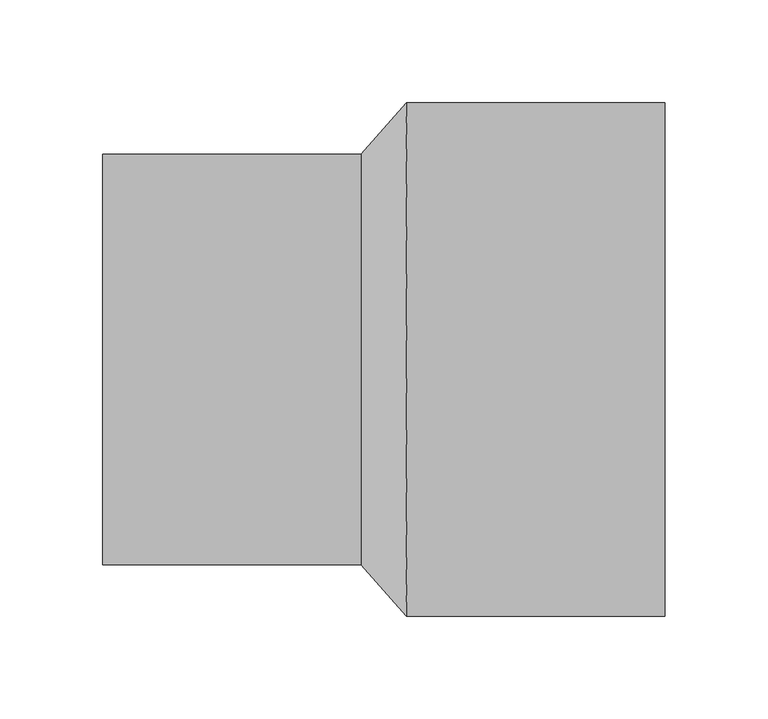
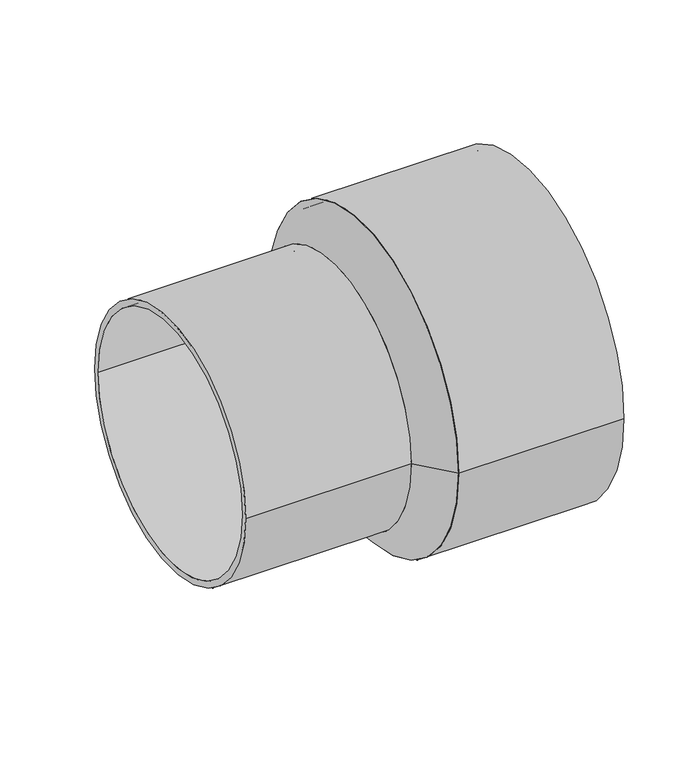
"""IFC4 building model written with IfcOpenShell, lengths in millimetres: pipe fitting geometry, EGB_VASEN_ PPR_Manguito reductor a tope WXRB110 : Manguito reductor a tope WXRB110."""

from ifc_helpers import new_model, si_unit, point, frame, origin, origin_2d, place, context, project, spatial, polyline, circle_curve, trimmed, segment, composite_curve, outline, extrude, source, transform, mapped, element, save
from ifc_brep_helpers import plane_surface, revolved_surface, advanced_brep


def pipe_fitting_e7738f66(model_context):
    return source(origin(), model_context, "Body", "SolidModel", [
        extrude(outline(composite_curve([segment(trimmed(circle_curve(origin_2d(), 125.0), [point((-125.0, 0.0))], [point((125.0, 0.0))], False, "CARTESIAN"), True, "CONTINUOUS"), segment(trimmed(circle_curve(origin_2d(), 125.0), [point((125.0, 0.0))], [point((-125.0, 0.0))], False, "CARTESIAN"), True, "CONTINUOUS")], self_intersect=False), holes=[composite_curve([segment(trimmed(circle_curve(origin_2d(), 120.0), [point((-120.0, 0.0))], [point((120.0, 0.0))], True, "CARTESIAN"), True, "CONTINUOUS"), segment(trimmed(circle_curve(origin_2d(), 120.0), [point((120.0, 0.0))], [point((-120.0, 0.0))], True, "CARTESIAN"), True, "CONTINUOUS")], self_intersect=False)]), frame((10.96, 0.0, 0.0), z_axis=(1.0, 0.0, 0.0), x_axis=(0.0, 1.0, 0.0)), (0.0, 0.0, 1.0), 126.04),
        extrude(outline(composite_curve([segment(trimmed(circle_curve(origin_2d(), 100.0), [point((-100.0, 0.0))], [point((100.0, 0.0))], False, "CARTESIAN"), True, "CONTINUOUS"), segment(trimmed(circle_curve(origin_2d(), 100.0), [point((100.0, 0.0))], [point((-100.0, 0.0))], False, "CARTESIAN"), True, "CONTINUOUS")], self_intersect=False), holes=[composite_curve([segment(trimmed(circle_curve(origin_2d(), 95.0), [point((-95.0, 0.0))], [point((95.0, 0.0))], True, "CARTESIAN"), True, "CONTINUOUS"), segment(trimmed(circle_curve(origin_2d(), 95.0), [point((95.0, 0.0))], [point((-95.0, 0.0))], True, "CARTESIAN"), True, "CONTINUOUS")], self_intersect=False)]), frame((-137.0, 0.0, 0.0), z_axis=(1.0, 0.0, 0.0), x_axis=(0.0, 1.0, 0.0)), (0.0, 0.0, 1.0), 126.04),
        advanced_brep(
        [(10.96, -125.0, 0.0), (10.96, 125.0, 0.0), (-10.96, -100.0, 0.0), (-10.96, 100.0, 0.0)],
        [
            (0, 1, circle_curve(frame((10.96, 0.0, 0.0), z_axis=(1.0, 0.0, 0.0), x_axis=(0.0, -1.0, 0.0)), 125.0)),
            (1, 0, circle_curve(frame((10.96, 0.0, 0.0), z_axis=(1.0, 0.0, 0.0), x_axis=(0.0, 1.0, 0.0)), 125.0)),
            (2, 3, circle_curve(frame((-10.96, 0.0, 0.0), z_axis=(-1.0, 0.0, 0.0), x_axis=(0.0, 1.0, 0.0)), 100.0)),
            (3, 2, circle_curve(frame((-10.96, 0.0, 0.0), z_axis=(-1.0, 0.0, 0.0), x_axis=(0.0, -1.0, 0.0)), 100.0)),
            (3, 1),
            (0, 2),
        ],
        [
            plane_surface(frame((10.96, 0.0, 0.0), z_axis=(1.0, 0.0, 0.0), x_axis=(0.0, 0.0, -1.0))),
            plane_surface(frame((-10.96, 0.0, 0.0), z_axis=(-1.0, 0.0, 0.0), x_axis=(0.0, 0.0, -1.0))),
            revolved_surface(polyline([(-10.959999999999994, 100.00000000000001, 0.0), (10.959999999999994, 125.0, 0.0)]), (-98.64, 0.0, 0.0), (1.0, 0.0, 0.0)),
            revolved_surface(polyline([(-10.959999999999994, -100.00000000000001, 0.0), (10.959999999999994, -125.0, 0.0)]), (-98.64, 0.0, 0.0), (1.0, 0.0, 0.0)),
        ],
        [
            (0, [[1, 2]]),
            (1, [[3, 4]]),
            (2, [[-4, 5, -1, 6]]),
            (3, [[-3, -6, -2, -5]]),
        ],
    ),
    ])


if __name__ == "__main__":
    model = new_model("IFC4")
    model_context = context("Model", 3, world=origin())
    ifc_project = project(units=[si_unit("LENGTHUNIT", "METRE", prefix="MILLI")], contexts=[model_context])
    site = spatial("IfcSite", under=ifc_project)
    building = spatial("IfcBuilding", under=site)
    placement = place(None, origin())
    pipe_fitting_shape = pipe_fitting_e7738f66(model_context)
    element("IfcPipeFitting", 1, ObjectType="EGB_VASEN_ PPR_Manguito reductor a tope WXRB110 : Manguito reductor a tope WXRB110", at=placement, inside=building, context=model_context, shape_type="MappedRepresentation", body=[
        mapped(pipe_fitting_shape, transform((0.0, 0.0, 0.0), x_axis=(1.0, 0.0, 0.0), y_axis=(0.0, 1.0, 0.0), z_axis=(0.0, 0.0, 1.0))),
    ])
    save(model, "model.ifc")
